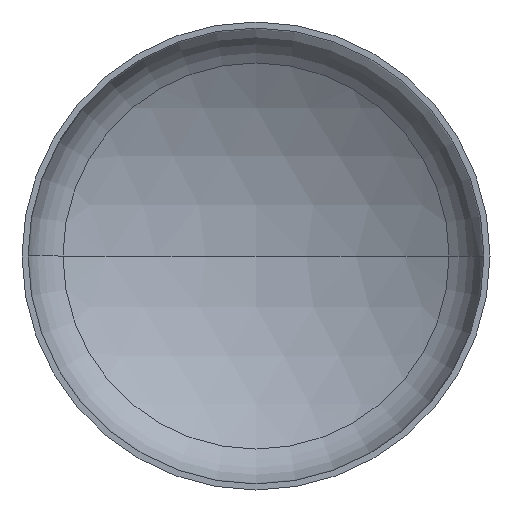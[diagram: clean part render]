
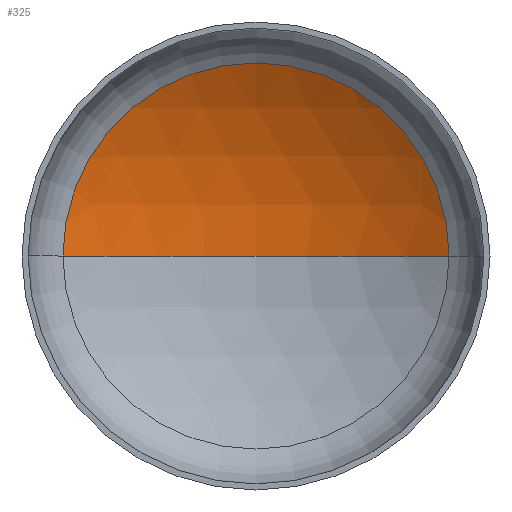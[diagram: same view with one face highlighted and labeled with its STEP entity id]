
A CAD part, front view. The second image highlights one B-rep face of the part: STEP entity #325.
In plain terms, the highlighted spherical face has radius 5200 mm.
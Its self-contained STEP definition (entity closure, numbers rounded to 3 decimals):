
#20 = AXIS2_PLACEMENT_3D ( 'NONE', #92, #57, #286 ) ;
#57 = DIRECTION ( 'NONE',  ( 0., 0., -1. ) ) ;
#62 = AXIS2_PLACEMENT_3D ( 'NONE', #138, #157, #161 ) ;
#68 = AXIS2_PLACEMENT_3D ( 'NONE', #194, #373, #398 ) ;
#71 = AXIS2_PLACEMENT_3D ( 'NONE', #351, #410, #205 ) ;
#80 = CARTESIAN_POINT ( 'NONE',  ( 2681.714, 956.761, 0. ) ) ;
#89 = ORIENTED_EDGE ( 'NONE', *, *, #162, .T. ) ;
#92 = CARTESIAN_POINT ( 'NONE',  ( 0., -3498.395, 0. ) ) ;
#120 = FACE_OUTER_BOUND ( 'NONE', #203, .T. ) ;
#122 = VERTEX_POINT ( 'NONE', #221 ) ;
#132 = ORIENTED_EDGE ( 'NONE', *, *, #166, .T. ) ;
#138 = CARTESIAN_POINT ( 'NONE',  ( 0., -3498.395, 0. ) ) ;
#139 = SPHERICAL_SURFACE ( 'NONE', #20, 5200. ) ;
#152 = VERTEX_POINT ( 'NONE', #314 ) ;
#157 = DIRECTION ( 'NONE',  ( 0., 0., 1. ) ) ;
#161 = DIRECTION ( 'NONE',  ( 1., 0., 0. ) ) ;
#162 = EDGE_CURVE ( 'NONE', #291, #122, #260, .T. ) ;
#166 = EDGE_CURVE ( 'NONE', #152, #291, #313, .T. ) ;
#167 = EDGE_CURVE ( 'NONE', #152, #122, #253, .T. ) ;
#191 = ORIENTED_EDGE ( 'NONE', *, *, #167, .F. ) ;
#194 = CARTESIAN_POINT ( 'NONE',  ( 0., -3498.395, 0. ) ) ;
#203 = EDGE_LOOP ( 'NONE', ( #191, #132, #89 ) ) ;
#205 = DIRECTION ( 'NONE',  ( 1., 0., 0. ) ) ;
#221 = CARTESIAN_POINT ( 'NONE',  ( -2681.714, 956.761, 0. ) ) ;
#253 = CIRCLE ( 'NONE', #62, 5200. ) ;
#260 = CIRCLE ( 'NONE', #71, 2681.714 ) ;
#286 = DIRECTION ( 'NONE',  ( -1., 0., 0. ) ) ;
#291 = VERTEX_POINT ( 'NONE', #80 ) ;
#313 = CIRCLE ( 'NONE', #68, 5200. ) ;
#314 = CARTESIAN_POINT ( 'NONE',  ( 0., 1701.605, 0. ) ) ;
#325 = ADVANCED_FACE ( 'NONE', ( #120 ), #139, .F. ) ;
#351 = CARTESIAN_POINT ( 'NONE',  ( 0., 956.761, 0. ) ) ;
#373 = DIRECTION ( 'NONE',  ( 0., 0., -1. ) ) ;
#398 = DIRECTION ( 'NONE',  ( -1., 0., 0. ) ) ;
#410 = DIRECTION ( 'NONE',  ( 0., -1., 0. ) ) ;
